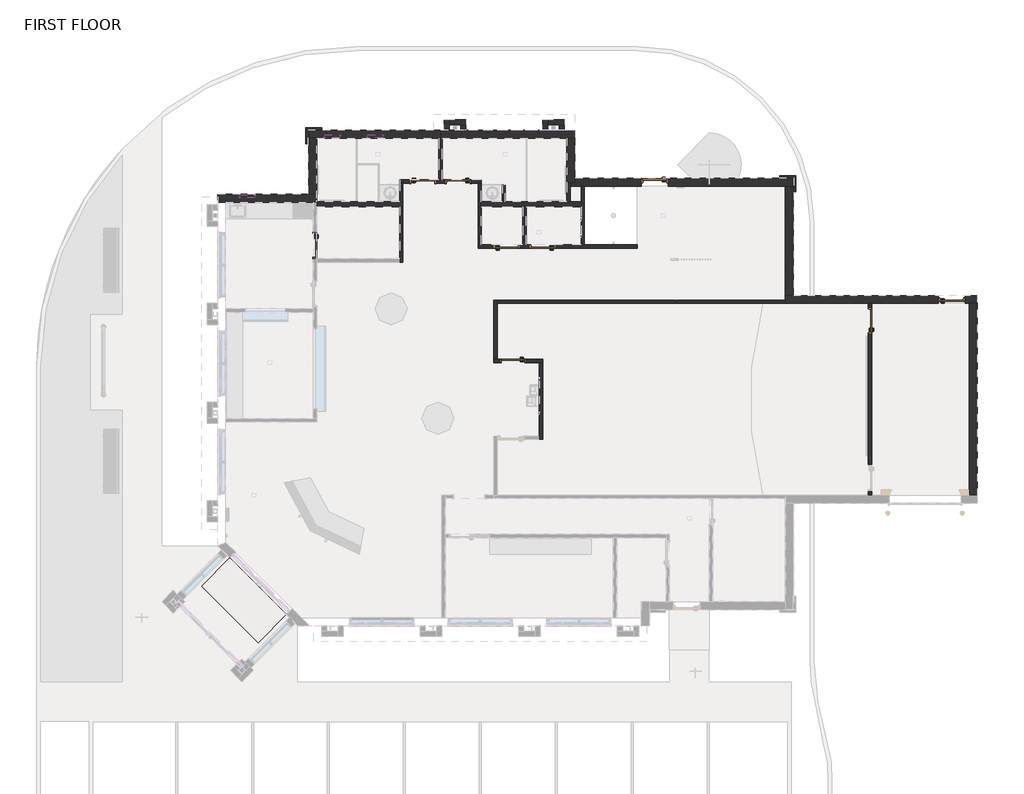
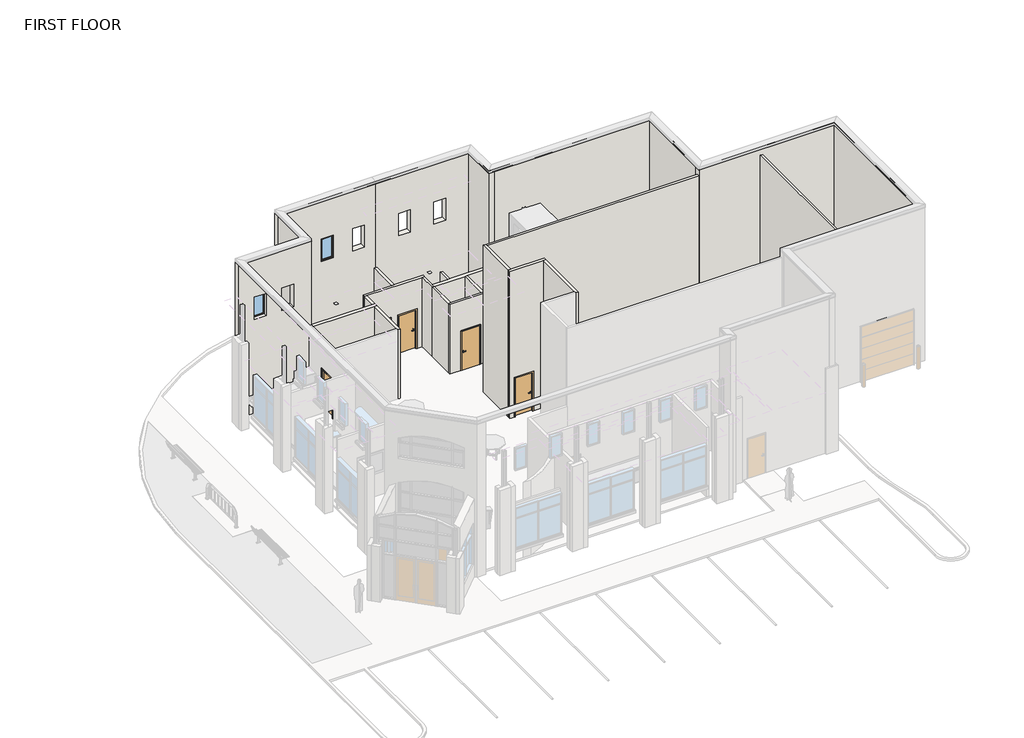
# One storey, part 4 of 7: 37 walls, 9 doors, 3 windows, 1 slab.
"""IFC4 building model written with IfcOpenShell, lengths in millimetres."""

from ifc_helpers import new_model, si_unit, frame, origin, place, context, project, spatial, polyline, outline, extrude, faceted_brep, transform, mapped, element, save
from components import hm_frame_door_interior_single_4ead148d, hm_frame_door_interior_single_41877bdb, hm_frame_door_interior_single_d49bdf56, door_65ba9089, aluminum_exterior_window_single_3885_e2dbf674

model = new_model("IFC4")

# Units and contexts
model_context = context("Model", 3, world=origin())
ifc_project = project(units=[si_unit("LENGTHUNIT", "METRE", prefix="MILLI")], contexts=[model_context])

# Site, building, storey
site = spatial("IfcSite", under=ifc_project)
building = spatial("IfcBuilding", under=site)
storey = spatial("IfcBuildingStorey", under=building, Name="FIRST FLOOR", Elevation=30480.0)

# Doors
placement = place(None, origin())
hm_frame_door_interior_single_shape = hm_frame_door_interior_single_4ead148d(model_context)
element("IfcDoor", 1, ObjectType="HM Frame Door - Interior Single : 36\" x 84\" x 5.75\" WD Door", at=placement, inside=storey, context=model_context, shape_type="MappedRepresentation", body=[
    mapped(hm_frame_door_interior_single_shape, transform((-5569.060253, 3840.2885405, 30480.0), x_axis=(-1.0, 0.0, 0.0), y_axis=(0.0, -1.0, 0.0), z_axis=(0.0, 0.0, 1.0))),
])
element("IfcDoor", 2, ObjectType="HM Frame Door - Interior Single : 36\" x 84\" x 5.75\" WD Door", at=placement, inside=storey, context=model_context, shape_type="MappedRepresentation", body=[
    mapped(hm_frame_door_interior_single_shape, transform((-7661.385253, 10685.5885405, 30480.0), x_axis=(-1.0, 0.0, 0.0), y_axis=(0.0, -1.0, 0.0), z_axis=(0.0, 0.0, 1.0))),
])
element("IfcDoor", 3, ObjectType="HM Frame Door - Interior Single : 36\" x 84\" x 5.75\" WD Door", at=placement, inside=storey, context=model_context, shape_type="MappedRepresentation", body=[
    mapped(hm_frame_door_interior_single_shape, transform((-5811.886793, 8209.0885405, 30480.0), x_axis=(1.0, 0.0, 0.0), y_axis=(0.0, 1.0, 0.0), z_axis=(0.0, 0.0, 1.0))),
])
element("IfcDoor", 4, ObjectType="HM Frame Door - Interior Single : 36\" x 84\" x 5.75\" WD Door", at=placement, inside=storey, context=model_context, shape_type="MappedRepresentation", body=[
    mapped(hm_frame_door_interior_single_shape, transform((8049.7427189, 5375.4010405, 30480.0), x_axis=(0.0, 1.0, 0.0), y_axis=(-1.0, 0.0, 0.0), z_axis=(0.0, 0.0, 1.0))),
])
hm_frame_door_interior_single_2_shape = hm_frame_door_interior_single_41877bdb(model_context)
element("IfcDoor", 5, ObjectType="HM Frame Door - Interior Single : 36\" x 84\" x 5.75\" WD Door", at=placement, inside=storey, context=model_context, shape_type="MappedRepresentation", body=[
    mapped(hm_frame_door_interior_single_2_shape, transform((-13127.147753, 8248.7760405, 30480.0), x_axis=(0.0, -1.0, 0.0), y_axis=(1.0, 0.0, 0.0), z_axis=(0.0, 0.0, 1.0))),
])
element("IfcDoor", 6, ObjectType="HM Frame Door - Interior Single : 36\" x 84\" x 5.75\" WD Door", at=placement, inside=storey, context=model_context, shape_type="MappedRepresentation", body=[
    mapped(hm_frame_door_interior_single_2_shape, transform((-4440.347753, 8209.0885405, 30480.0), x_axis=(-1.0, 0.0, 0.0), y_axis=(0.0, -1.0, 0.0), z_axis=(0.0, 0.0, 1.0))),
])
element("IfcDoor", 7, ObjectType="HM Frame Door - Interior Single : 36\" x 84\" x 5.75\" WD Door", at=placement, inside=storey, context=model_context, shape_type="MappedRepresentation", body=[
    mapped(hm_frame_door_interior_single_2_shape, transform((-9004.410253, 10685.5885405, 30480.0), x_axis=(1.0, 0.0, 0.0), y_axis=(0.0, 1.0, 0.0), z_axis=(0.0, 0.0, 1.0))),
])
hm_frame_door_interior_single_3_shape = hm_frame_door_interior_single_d49bdf56(model_context)
element("IfcDoor", 8, ObjectType="HM Frame Door - Interior Single : 36\" x 84\" x 5.75\" WD Door", at=placement, inside=storey, context=model_context, shape_type="MappedRepresentation", body=[
    mapped(hm_frame_door_interior_single_3_shape, transform((11166.364747, 6188.2010405, 30480.0), x_axis=(1.0, 0.0, 0.0), y_axis=(0.0, 1.0, 0.0), z_axis=(0.0, 0.0, 1.0))),
])
door_shape = door_65ba9089(model_context)
element("IfcDoor", 9, ObjectType="HM_Frame_Door_-_Exterior_Single_3894 : 3'-0\" x 7'-0\" Metal_5.75\" x 4\"", at=placement, inside=storey, context=model_context, shape_type="MappedRepresentation", body=[
    mapped(door_shape, transform((-162.035253, 10658.6010405, 30480.0), x_axis=(1.0, 0.0, 0.0), y_axis=(0.0, 1.0, 0.0), z_axis=(0.0, 0.0, 1.0))),
])

# Slab
element("IfcSlab", 10, ObjectType="Concrete - 4\"", at=placement, inside=storey, context=model_context, shape_type="SweptSolid", body=[
    extrude(outline(polyline([(-14214.7196115, -5819.514601), (-15292.3503461, -6897.1453355), (-17447.6118151, -4741.8838664), (-16369.9810806, -3664.2531319), (-14214.7196115, -5819.514601)])), frame((0.0, 0.0, 30378.4), z_axis=(0.0, 0.0, 1.0), x_axis=(1.0, 0.0, 0.0)), (0.0, 0.0, 1.0), 101.6),
])

# Walls
element("IfcWall", 11, ObjectType="Exterior - Brick on Mtl. Stud", at=placement, inside=storey, context=model_context, shape_type="Brep", body=[
    faceted_brep([(-16824.435253, 9896.6010405, 30480.0), (-16519.635253, 9896.6010405, 30480.0), (-13189.060253, 9896.6010405, 30480.0), (-13065.235253, 9896.6010405, 30480.0), (-13065.235253, 9896.6010405, 34290.0), (-13065.235253, 9896.6010405, 34594.8), (-13065.235253, 9896.6010405, 38557.2), (-13065.235253, 9896.6010405, 38890.816921), (-16519.635253, 9896.6010405, 38890.816921), (-16522.810253, 9896.6010405, 38899.5401618), (-16522.810253, 9896.6010405, 39014.4), (-16824.435253, 9896.6010405, 39014.4), (-13979.635253, 9896.6010405, 36830.0), (-13979.635253, 9896.6010405, 35610.8), (-14589.235253, 9896.6010405, 35610.8), (-14589.235253, 9896.6010405, 36830.0), (-15402.035253, 9896.6010405, 36830.0), (-15402.035253, 9896.6010405, 35610.8), (-16011.635253, 9896.6010405, 35610.8), (-16011.635253, 9896.6010405, 36830.0), (-13065.235253, 10201.4010405, 30480.0), (-13370.035253, 10201.4010405, 30480.0), (-16824.435253, 10201.4010405, 30480.0), (-16824.435253, 10201.4010405, 39014.4), (-13370.035253, 10201.4010405, 39014.4), (-13068.410253, 10201.4010405, 39014.4), (-13068.410253, 10201.4010405, 38899.5401618), (-13065.235253, 10201.4010405, 38890.816921), (-13979.635253, 10201.4010405, 35610.8), (-13979.635253, 10201.4010405, 36830.0), (-14589.235253, 10201.4010405, 36830.0), (-14589.235253, 10201.4010405, 35610.8), (-15402.035253, 10201.4010405, 35610.8), (-15402.035253, 10201.4010405, 36830.0), (-16011.635253, 10201.4010405, 36830.0), (-16011.635253, 10201.4010405, 35610.8), (-13065.235253, 9912.4760405, 30480.0), (-16522.810253, 9899.7760405, 39014.4), (-13068.410253, 9899.7760405, 39014.4), (-16522.810253, 9899.7760405, 38899.5401618), (-13068.410253, 9899.7760405, 38899.5401618)], [[[0, 1, 2, 3, 4, 5, 6, 7, 8, 9, 10, 11], [12, 13, 14, 15], [16, 17, 18, 19]], [[20, 21, 22, 23, 24, 25, 26, 27], [28, 29, 30, 31], [32, 33, 34, 35]], [[3, 2, 1, 0, 22, 21, 20, 36]], [[23, 11, 10, 37, 38, 25, 24]], [[0, 11, 23, 22]], [[3, 36, 20, 27, 7, 6, 5, 4]], [[13, 12, 29, 28]], [[14, 13, 28, 31]], [[15, 14, 31, 30]], [[12, 15, 30, 29]], [[17, 16, 33, 32]], [[18, 17, 32, 35]], [[19, 18, 35, 34]], [[16, 19, 34, 33]], [[39, 37, 10, 9]], [[8, 39, 9]], [[39, 40, 38, 37]], [[40, 39, 8, 7]], [[38, 40, 26, 25]], [[40, 7, 27, 26]]]),
])
element("IfcWall", 12, ObjectType="Exterior - Brick on Mtl. Stud", at=placement, inside=storey, context=model_context, shape_type="SweptSolid", body=[
    extrude(outline(polyline([(30480.0, 4816.364747), (30480.0, 5121.164747), (39014.4, 5121.164747), (39014.4, 4819.539747), (38899.5401618, 4819.539747), (38890.816921, 4816.364747), (30480.0, 4816.364747)])), frame((0.0, 6340.6010405, 0.0), z_axis=(0.0, 1.0, 0.0), x_axis=(0.0, 0.0, 1.0)), (0.0, 0.0, 1.0), 4165.6),
])
element("IfcWall", 13, ObjectType="Exterior - Brick on Mtl. Stud", at=placement, inside=storey, context=model_context, shape_type="Brep", body=[
    faceted_brep([(12131.564747, 6035.8010405, 30480.0), (12131.564747, 6035.8010405, 39014.4), (11829.939747, 6035.8010405, 39014.4), (11829.939747, 6035.8010405, 38899.5401618), (11826.764747, 6035.8010405, 38890.816921), (4816.364747, 6035.8010405, 38890.816921), (4816.364747, 6035.8010405, 38557.2), (4816.364747, 6035.8010405, 30480.0), (7987.8302189, 6035.8010405, 30480.0), (8111.6552189, 6035.8010405, 30480.0), (10658.364747, 6035.8010405, 30480.0), (10658.364747, 6035.8010405, 32664.4), (11674.364747, 6035.8010405, 32664.4), (11674.364747, 6035.8010405, 30480.0), (11826.764747, 6035.8010405, 30480.0), (12131.564747, 6340.6010405, 39014.4), (12131.564747, 6340.6010405, 30480.0), (11674.364747, 6340.6010405, 30480.0), (11674.364747, 6340.6010405, 32664.4), (10658.364747, 6340.6010405, 32664.4), (10658.364747, 6340.6010405, 30480.0), (5121.164747, 6340.6010405, 30480.0), (4816.364747, 6340.6010405, 30480.0), (4816.364747, 6340.6010405, 38890.816921), (4819.539747, 6340.6010405, 38899.5401618), (4819.539747, 6340.6010405, 39014.4), (5121.164747, 6340.6010405, 39014.4), (4816.364747, 6159.6260405, 30480.0), (4819.539747, 6038.9760405, 39014.4), (11829.939747, 6038.9760405, 39014.4), (4819.539747, 6038.9760405, 38899.5401618), (11829.939747, 6038.9760405, 38899.5401618)], [[[0, 1, 2, 3, 4, 5, 6, 7, 8, 9, 10, 11, 12, 13, 14]], [[15, 16, 17, 18, 19, 20, 21, 22, 23, 24, 25, 26]], [[7, 27, 22, 21, 20, 10, 9, 8]], [[16, 0, 14, 13, 17]], [[1, 15, 26, 25, 28, 29, 2]], [[1, 0, 16, 15]], [[22, 27, 7, 6, 5, 23]], [[19, 18, 12, 11]], [[20, 19, 11, 10]], [[18, 17, 13, 12]], [[30, 28, 25, 24]], [[5, 30, 24, 23]], [[30, 31, 29, 28]], [[31, 30, 5, 4]], [[29, 31, 3, 2]], [[31, 4, 3]]]),
])
element("IfcWall", 14, ObjectType="Exterior - Brick on Mtl. Stud", at=placement, inside=storey, context=model_context, shape_type="SweptSolid", body=[
    extrude(outline(polyline([(30480.0, 11826.764747), (30480.0, 12131.564747), (39014.4, 12131.564747), (39014.4, 11829.939747), (38899.5401618, 11829.939747), (38890.816921, 11826.764747), (30480.0, 11826.764747)])), frame((0.0, -1279.3989595, 0.0), z_axis=(0.0, 1.0, 0.0), x_axis=(0.0, 0.0, 1.0)), (0.0, 0.0, 1.0), 7315.2),
])
element("IfcWall", 15, ObjectType="Exterior - Brick on Mtl. Stud", at=placement, inside=storey, context=model_context, shape_type="Brep", body=[
    faceted_brep([(-13370.035253, 12335.0010405, 30480.0), (-13065.235253, 12335.0010405, 30480.0), (-8394.810253, 12335.0010405, 30480.0), (-8332.897753, 12335.0010405, 30480.0), (-8332.897753, 12335.0010405, 38890.816921), (-13065.235253, 12335.0010405, 38890.816921), (-13068.410253, 12335.0010405, 38899.5401618), (-13068.410253, 12335.0010405, 39014.4), (-13370.035253, 12335.0010405, 39014.4), (-9509.235253, 12335.0010405, 35610.8), (-9509.235253, 12335.0010405, 36830.0), (-8899.635253, 12335.0010405, 36830.0), (-8899.635253, 12335.0010405, 35610.8), (-11134.835253, 12335.0010405, 35610.8), (-11134.835253, 12335.0010405, 36830.0), (-10525.235253, 12335.0010405, 36830.0), (-10525.235253, 12335.0010405, 35610.8), (-12760.435253, 12335.0010405, 35610.8), (-12760.435253, 12335.0010405, 36830.0), (-12150.835253, 12335.0010405, 36830.0), (-12150.835253, 12335.0010405, 35610.8), (-8332.897753, 12639.8010405, 30480.0), (-13370.035253, 12639.8010405, 30480.0), (-13370.035253, 12639.8010405, 39014.4), (-8332.897753, 12639.8010405, 39014.4), (-9509.235253, 12639.8010405, 36830.0), (-9509.235253, 12639.8010405, 35610.8), (-8899.635253, 12639.8010405, 35610.8), (-8899.635253, 12639.8010405, 36830.0), (-11134.835253, 12639.8010405, 36830.0), (-11134.835253, 12639.8010405, 35610.8), (-10525.235253, 12639.8010405, 35610.8), (-10525.235253, 12639.8010405, 36830.0), (-12760.435253, 12639.8010405, 36830.0), (-12760.435253, 12639.8010405, 35610.8), (-12150.835253, 12639.8010405, 35610.8), (-12150.835253, 12639.8010405, 36830.0), (-13068.410253, 12338.1760405, 39014.4), (-8332.897753, 12338.1760405, 39014.4), (-8332.897753, 12338.1760405, 38899.5401618), (-13068.410253, 12338.1760405, 38899.5401618)], [[[0, 1, 2, 3, 4, 5, 6, 7, 8], [9, 10, 11, 12], [13, 14, 15, 16], [17, 18, 19, 20]], [[21, 22, 23, 24], [25, 26, 27, 28], [29, 30, 31, 32], [33, 34, 35, 36]], [[3, 2, 1, 0, 22, 21]], [[24, 23, 8, 7, 37, 38]], [[0, 8, 23, 22]], [[3, 21, 24, 38, 39, 4]], [[26, 25, 10, 9]], [[27, 26, 9, 12]], [[28, 27, 12, 11]], [[25, 28, 11, 10]], [[30, 29, 14, 13]], [[31, 30, 13, 16]], [[32, 31, 16, 15]], [[29, 32, 15, 14]], [[34, 33, 18, 17]], [[35, 34, 17, 20]], [[36, 35, 20, 19]], [[33, 36, 19, 18]], [[40, 37, 7, 6]], [[5, 40, 6]], [[37, 40, 39, 38]], [[40, 5, 4, 39]]]),
])
element("IfcWall", 16, ObjectType="Exterior - Brick on Mtl. Stud", at=placement, inside=storey, context=model_context, shape_type="SweptSolid", body=[
    extrude(outline(polyline([(30480.0, -13370.035253), (30480.0, -13065.235253), (38890.816921, -13065.235253), (38899.5401618, -13068.410253), (39014.4, -13068.410253), (39014.4, -13370.035253), (30480.0, -13370.035253)])), frame((0.0, 10201.4010405, 0.0), z_axis=(0.0, 1.0, 0.0), x_axis=(0.0, 0.0, 1.0)), (0.0, 0.0, 1.0), 2133.6),
])
element("IfcWall", 17, ObjectType="Exterior - Brick on Mtl. Stud", at=placement, inside=storey, context=model_context, shape_type="Brep", body=[
    faceted_brep([(-3210.035253, 10658.6010405, 30480.0), (-3210.035253, 10811.0010405, 30480.0), (-3210.035253, 12335.0010405, 30480.0), (-3210.035253, 12335.0010405, 39014.4), (-3210.035253, 10811.0010405, 39014.4), (-3210.035253, 10509.3760405, 39014.4), (-3210.035253, 10509.3760405, 38899.5401618), (-3210.035253, 10506.2010405, 38890.816921), (-3210.035253, 10506.2010405, 34290.0), (-3210.035253, 10658.6010405, 34290.0), (-3514.835253, 12335.0010405, 30480.0), (-3514.835253, 10658.6010405, 30480.0), (-3514.835253, 10658.6010405, 34290.0), (-3514.835253, 10506.2010405, 34290.0), (-3514.835253, 10506.2010405, 34594.8), (-3514.835253, 10506.2010405, 38557.2), (-3514.835253, 10506.2010405, 38890.816921), (-3514.835253, 12335.0010405, 38890.816921), (-3391.010253, 10658.6010405, 30480.0), (-3511.660253, 12335.0010405, 39014.4), (-3511.660253, 10509.3760405, 39014.4), (-3391.010253, 10658.6010405, 34290.0), (-3391.010253, 10506.2010405, 34290.0), (-3511.660253, 12335.0010405, 38899.5401618), (-3511.660253, 10509.3760405, 38899.5401618)], [[[0, 1, 2, 3, 4, 5, 6, 7, 8, 9]], [[10, 11, 12, 13, 14, 15, 16, 17]], [[2, 1, 0, 18, 11, 10]], [[5, 4, 3, 19, 20]], [[11, 18, 0, 9, 21, 12]], [[13, 12, 21, 9, 8, 22]], [[13, 22, 8, 7, 16, 15, 14]], [[3, 2, 10, 17, 23, 19]], [[24, 16, 7, 6]], [[20, 24, 6, 5]], [[16, 24, 23, 17]], [[23, 24, 20, 19]]]),
])
element("IfcWall", 18, ObjectType="Exterior - Brick on Mtl. Stud", at=placement, inside=storey, context=model_context, shape_type="Brep", body=[
    faceted_brep([(5121.164747, 10506.2010405, 30480.0), (5121.164747, 10506.2010405, 39014.4), (4819.539747, 10506.2010405, 39014.4), (4819.539747, 10506.2010405, 38899.5401618), (4816.364747, 10506.2010405, 38890.816921), (-3210.035253, 10506.2010405, 38890.816921), (-3210.035253, 10506.2010405, 34290.0), (-3391.010253, 10506.2010405, 34290.0), (-3391.010253, 10506.2010405, 30480.0), (-2967.147753, 10506.2010405, 30480.0), (-2843.322753, 10506.2010405, 30480.0), (-670.035253, 10506.2010405, 30480.0), (-670.035253, 10506.2010405, 32715.2), (345.964747, 10506.2010405, 32715.2), (345.964747, 10506.2010405, 30480.0), (4816.364747, 10506.2010405, 30480.0), (-3210.035253, 10811.0010405, 39014.4), (5121.164747, 10811.0010405, 39014.4), (5121.164747, 10811.0010405, 30480.0), (345.964747, 10811.0010405, 30480.0), (345.964747, 10811.0010405, 32715.2), (-670.035253, 10811.0010405, 32715.2), (-670.035253, 10811.0010405, 30480.0), (-3210.035253, 10811.0010405, 30480.0), (-3391.010253, 10658.6010405, 30480.0), (-3210.035253, 10658.6010405, 30480.0), (-3210.035253, 10509.3760405, 39014.4), (4819.539747, 10509.3760405, 39014.4), (-3210.035253, 10658.6010405, 34290.0), (-3391.010253, 10658.6010405, 34290.0), (-3210.035253, 10509.3760405, 38899.5401618), (4819.539747, 10509.3760405, 38899.5401618)], [[[0, 1, 2, 3, 4, 5, 6, 7, 8, 9, 10, 11, 12, 13, 14, 15]], [[16, 17, 18, 19, 20, 21, 22, 23]], [[18, 0, 15, 14, 19]], [[8, 24, 25, 23, 22, 11, 10, 9]], [[17, 16, 26, 27, 2, 1]], [[1, 0, 18, 17]], [[7, 6, 28, 29]], [[8, 7, 29, 24]], [[29, 28, 25, 24]], [[23, 25, 28, 6, 5, 30, 26, 16]], [[21, 20, 13, 12]], [[22, 21, 12, 11]], [[20, 19, 14, 13]], [[31, 27, 26, 30]], [[4, 31, 30, 5]], [[27, 31, 3, 2]], [[31, 4, 3]]]),
])
element("IfcWall", 19, ObjectType="Exterior - Brick on Mtl. Stud", at=placement, inside=storey, context=model_context, shape_type="Brep", body=[
    faceted_brep([(-8332.897753, 12335.0010405, 30480.0), (-8270.985253, 12335.0010405, 30480.0), (-3514.835253, 12335.0010405, 30480.0), (-3210.035253, 12335.0010405, 30480.0), (-3210.035253, 12335.0010405, 39014.4), (-3511.660253, 12335.0010405, 39014.4), (-3511.660253, 12335.0010405, 38899.5401618), (-3514.835253, 12335.0010405, 38890.816921), (-8332.897753, 12335.0010405, 38890.816921), (-6512.035253, 12335.0010405, 36830.0), (-6512.035253, 12335.0010405, 35610.8), (-7121.635253, 12335.0010405, 35610.8), (-7121.635253, 12335.0010405, 36830.0), (-4683.235253, 12335.0010405, 36830.0), (-4683.235253, 12335.0010405, 35610.8), (-5292.835253, 12335.0010405, 35610.8), (-5292.835253, 12335.0010405, 36830.0), (-3210.035253, 12639.8010405, 30480.0), (-8332.897753, 12639.8010405, 30480.0), (-8332.897753, 12639.8010405, 39014.4), (-3210.035253, 12639.8010405, 39014.4), (-6512.035253, 12639.8010405, 35610.8), (-6512.035253, 12639.8010405, 36830.0), (-7121.635253, 12639.8010405, 36830.0), (-7121.635253, 12639.8010405, 35610.8), (-4683.235253, 12639.8010405, 35610.8), (-4683.235253, 12639.8010405, 36830.0), (-5292.835253, 12639.8010405, 36830.0), (-5292.835253, 12639.8010405, 35610.8), (-8332.897753, 12338.1760405, 39014.4), (-3511.660253, 12338.1760405, 39014.4), (-8332.897753, 12338.1760405, 38899.5401618), (-3511.660253, 12338.1760405, 38899.5401618)], [[[0, 1, 2, 3, 4, 5, 6, 7, 8], [9, 10, 11, 12], [13, 14, 15, 16]], [[17, 18, 19, 20], [21, 22, 23, 24], [25, 26, 27, 28]], [[3, 2, 1, 0, 18, 17]], [[20, 19, 29, 30, 5, 4]], [[4, 3, 17, 20]], [[18, 0, 8, 31, 29, 19]], [[10, 9, 22, 21]], [[11, 10, 21, 24]], [[12, 11, 24, 23]], [[9, 12, 23, 22]], [[14, 13, 26, 25]], [[15, 14, 25, 28]], [[16, 15, 28, 27]], [[13, 16, 27, 26]], [[32, 30, 29, 31]], [[7, 32, 31, 8]], [[30, 32, 6, 5]], [[32, 7, 6]]]),
])
element("IfcWall", 20, ObjectType="Generic - 4\" CMU", at=placement, inside=storey, context=model_context, shape_type="Brep", body=[
    faceted_brep([(4613.164747, 10810.4918385, 30480.0), (5121.164747, 10810.4918385, 30480.0), (5222.764747, 10810.4918385, 30480.0), (5222.764747, 10810.4918385, 35153.6), (5121.164747, 10810.4918385, 35153.6), (4613.164747, 10810.4918385, 35153.6), (4613.164747, 10912.0918385, 30480.0), (4613.164747, 10912.0918385, 35153.6), (5222.764747, 10912.0918385, 35153.6), (5222.764747, 10912.0918385, 30480.0)], [[[0, 1, 2, 3, 4, 5]], [[6, 7, 8, 9]], [[2, 1, 0, 6, 9]], [[5, 4, 3, 8, 7]], [[0, 5, 7, 6]], [[3, 2, 9, 8]]]),
])
element("IfcWall", 21, ObjectType="Generic - 4\" CMU", at=placement, inside=storey, context=model_context, shape_type="SweptSolid", body=[
    extrude(outline(polyline([(5222.764747, 10810.4918385), (5222.764747, 10302.4918385), (5121.164747, 10302.4918385), (5121.164747, 10810.4918385), (5222.764747, 10810.4918385)])), frame((0.0, 0.0, 30480.0), z_axis=(0.0, 0.0, 1.0), x_axis=(1.0, 0.0, 0.0)), (0.0, 0.0, 1.0), 4673.6),
])
element("IfcWall", 22, ObjectType="Generic - 4\" CMU", at=placement, inside=storey, context=model_context, shape_type="Brep", body=[
    faceted_brep([(-12862.035253, 12741.4010405, 30480.0), (-13471.635253, 12741.4010405, 30480.0), (-13471.635253, 12741.4010405, 35153.6), (-12862.035253, 12741.4010405, 35153.6), (-12862.035253, 12639.8010405, 30480.0), (-12862.035253, 12639.8010405, 35153.6), (-13370.035253, 12639.8010405, 35153.6), (-13471.635253, 12639.8010405, 35153.6), (-13471.635253, 12639.8010405, 30480.0), (-13370.035253, 12639.8010405, 30480.0)], [[[0, 1, 2, 3]], [[4, 5, 6, 7, 8, 9]], [[1, 0, 4, 9, 8]], [[3, 2, 7, 6, 5]], [[0, 3, 5, 4]], [[2, 1, 8, 7]]]),
])
element("IfcWall", 23, ObjectType="Generic - 4\" CMU", at=placement, inside=storey, context=model_context, shape_type="SweptSolid", body=[
    extrude(outline(polyline([(-13370.035253, 12639.8010405), (-13370.035253, 12131.8010405), (-13471.635253, 12131.8010405), (-13471.635253, 12639.8010405), (-13370.035253, 12639.8010405)])), frame((0.0, 0.0, 30480.0), z_axis=(0.0, 0.0, 1.0), x_axis=(1.0, 0.0, 0.0)), (0.0, 0.0, 1.0), 4673.6),
])
element("IfcWall", 24, ObjectType="Generic - 8\" Masonry", at=placement, inside=storey, context=model_context, shape_type="Brep", body=[
    faceted_brep([(-7994.729773, 12639.8010405, 30480.0), (-7994.729773, 12852.5260405, 30480.0), (-7994.729773, 13046.2010405, 30480.0), (-7994.729773, 13046.2010405, 35153.6), (-7994.729773, 12852.5260405, 35153.6), (-7994.729773, 12639.8010405, 35153.6), (-8188.404773, 12639.8010405, 30480.0), (-8188.404773, 12639.8010405, 35153.6), (-8188.404773, 13046.2010405, 35153.6), (-8188.404773, 13046.2010405, 30480.0)], [[[0, 1, 2, 3, 4, 5]], [[6, 7, 8, 9]], [[2, 1, 0, 6, 9]], [[5, 4, 3, 8, 7]], [[0, 5, 7, 6]], [[3, 2, 9, 8]]]),
])
element("IfcWall", 25, ObjectType="Generic - 8\" Masonry", at=placement, inside=storey, context=model_context, shape_type="Brep", body=[
    faceted_brep([(-7994.729773, 12852.5260405, 30480.0), (-7569.279773, 12852.5260405, 30480.0), (-7375.604773, 12852.5260405, 30480.0), (-7375.604773, 12852.5260405, 35153.6), (-7569.279773, 12852.5260405, 35153.6), (-7994.729773, 12852.5260405, 35153.6), (-7994.729773, 13046.2010405, 30480.0), (-7994.729773, 13046.2010405, 35153.6), (-7375.604773, 13046.2010405, 35153.6), (-7375.604773, 13046.2010405, 30480.0)], [[[0, 1, 2, 3, 4, 5]], [[6, 7, 8, 9]], [[2, 1, 0, 6, 9]], [[5, 4, 3, 8, 7]], [[3, 2, 9, 8]], [[0, 5, 7, 6]]]),
])
element("IfcWall", 26, ObjectType="Generic - 8\" Masonry", at=placement, inside=storey, context=model_context, shape_type="SweptSolid", body=[
    extrude(outline(polyline([(-7569.279773, 12639.8010405), (-7569.279773, 12852.5260405), (-7375.604773, 12852.5260405), (-7375.604773, 12639.8010405), (-7569.279773, 12639.8010405)])), frame((0.0, 0.0, 30480.0), z_axis=(0.0, 0.0, 1.0), x_axis=(1.0, 0.0, 0.0)), (0.0, 0.0, 1.0), 4673.6),
])
element("IfcWall", 27, ObjectType="Generic - 8\" Masonry", at=placement, inside=storey, context=model_context, shape_type="Brep", body=[
    faceted_brep([(-4235.529773, 12639.8010405, 30480.0), (-4235.529773, 12852.5260405, 30480.0), (-4235.529773, 13046.2010405, 30480.0), (-4235.529773, 13046.2010405, 35153.6), (-4235.529773, 12852.5260405, 35153.6), (-4235.529773, 12639.8010405, 35153.6), (-4429.204773, 12639.8010405, 30480.0), (-4429.204773, 12639.8010405, 35153.6), (-4429.204773, 13046.2010405, 35153.6), (-4429.204773, 13046.2010405, 30480.0)], [[[0, 1, 2, 3, 4, 5]], [[6, 7, 8, 9]], [[2, 1, 0, 6, 9]], [[5, 4, 3, 8, 7]], [[0, 5, 7, 6]], [[3, 2, 9, 8]]]),
])
element("IfcWall", 28, ObjectType="Generic - 8\" Masonry", at=placement, inside=storey, context=model_context, shape_type="Brep", body=[
    faceted_brep([(-4235.529773, 12852.5260405, 30480.0), (-3810.079773, 12852.5260405, 30480.0), (-3616.404773, 12852.5260405, 30480.0), (-3616.404773, 12852.5260405, 35153.6), (-3810.079773, 12852.5260405, 35153.6), (-4235.529773, 12852.5260405, 35153.6), (-4235.529773, 13046.2010405, 30480.0), (-4235.529773, 13046.2010405, 35153.6), (-3616.404773, 13046.2010405, 35153.6), (-3616.404773, 13046.2010405, 30480.0)], [[[0, 1, 2, 3, 4, 5]], [[6, 7, 8, 9]], [[2, 1, 0, 6, 9]], [[5, 4, 3, 8, 7]], [[3, 2, 9, 8]], [[0, 5, 7, 6]]]),
])
element("IfcWall", 29, ObjectType="Generic - 8\" Masonry", at=placement, inside=storey, context=model_context, shape_type="SweptSolid", body=[
    extrude(outline(polyline([(-3810.079773, 12639.8010405), (-3810.079773, 12852.5260405), (-3616.404773, 12852.5260405), (-3616.404773, 12639.8010405), (-3810.079773, 12639.8010405)])), frame((0.0, 0.0, 30480.0), z_axis=(0.0, 0.0, 1.0), x_axis=(1.0, 0.0, 0.0)), (0.0, 0.0, 1.0), 4673.6),
])
element("IfcWall", 30, ObjectType="Interior - 4 7/8\" Partition (1-hr)", at=placement, inside=storey, context=model_context, shape_type="SweptSolid", body=[
    extrude(outline(polyline([(4816.364747, 6035.8010405), (-6178.660253, 6035.8010405), (-6178.660253, 6159.6260405), (4816.364747, 6159.6260405), (4816.364747, 6035.8010405)])), frame((0.0, 0.0, 30480.0), z_axis=(0.0, 0.0, 1.0), x_axis=(1.0, 0.0, 0.0)), (0.0, 0.0, 1.0), 8077.2),
])
element("IfcWall", 31, ObjectType="Interior - 4 7/8\" Partition (1-hr)", at=placement, inside=storey, context=model_context, shape_type="Brep", body=[
    faceted_brep([(-9890.235253, 9728.3260405, 30480.0), (-9890.235253, 7740.7760405, 30480.0), (-9890.235253, 7616.9510405, 30480.0), (-9890.235253, 7616.9510405, 34290.0), (-9890.235253, 7740.7760405, 34290.0), (-9890.235253, 9728.3260405, 34290.0), (-9766.410253, 9728.3260405, 30480.0), (-9766.410253, 9728.3260405, 34290.0), (-9766.410253, 7616.9510405, 34290.0), (-9766.410253, 7616.9510405, 30480.0)], [[[0, 1, 2, 3, 4, 5]], [[6, 7, 8, 9]], [[2, 1, 0, 6, 9]], [[5, 4, 3, 8, 7]], [[3, 2, 9, 8]], [[0, 5, 7, 6]]]),
])
element("IfcWall", 32, ObjectType="Interior - 4 7/8\" Partition (1-hr)", at=placement, inside=storey, context=model_context, shape_type="Brep", body=[
    faceted_brep([(-8270.985253, 10747.5010405, 30480.0), (-8270.985253, 12335.0010405, 30480.0), (-8270.985253, 12335.0010405, 34290.0), (-8270.985253, 10747.5010405, 34290.0), (-8394.810253, 10747.5010405, 30480.0), (-8394.810253, 10747.5010405, 34290.0), (-8394.810253, 12335.0010405, 34290.0), (-8394.810253, 12335.0010405, 30480.0), (-8332.897753, 12335.0010405, 30480.0)], [[[0, 1, 2, 3]], [[4, 5, 6, 7]], [[1, 0, 4, 7, 8]], [[3, 2, 6, 5]], [[0, 3, 5, 4]], [[2, 1, 8, 7, 6]]]),
])
element("IfcWall", 33, ObjectType="Interior - 4 7/8\" Partition (1-hr)", at=placement, inside=storey, context=model_context, shape_type="Brep", body=[
    faceted_brep([(-8169.385253, 10747.5010405, 32664.4), (-8169.385253, 10747.5010405, 30480.0), (-8270.985253, 10747.5010405, 30480.0), (-8394.810253, 10747.5010405, 30480.0), (-8496.410253, 10747.5010405, 30480.0), (-8496.410253, 10747.5010405, 32664.4), (-9512.410253, 10747.5010405, 32664.4), (-9512.410253, 10747.5010405, 30480.0), (-9890.235253, 10747.5010405, 30480.0), (-9890.235253, 10747.5010405, 34290.0), (-8394.810253, 10747.5010405, 34290.0), (-8270.985253, 10747.5010405, 34290.0), (-6775.560253, 10747.5010405, 34290.0), (-6775.560253, 10747.5010405, 30480.0), (-7153.385253, 10747.5010405, 30480.0), (-7153.385253, 10747.5010405, 32664.4), (-8496.410253, 10623.6760405, 30480.0), (-8169.385253, 10623.6760405, 30480.0), (-8169.385253, 10623.6760405, 32664.4), (-7153.385253, 10623.6760405, 32664.4), (-7153.385253, 10623.6760405, 30480.0), (-6899.385253, 10623.6760405, 30480.0), (-6775.560253, 10623.6760405, 30480.0), (-6775.560253, 10623.6760405, 34290.0), (-6899.385253, 10623.6760405, 34290.0), (-9766.410253, 10623.6760405, 34290.0), (-9890.235253, 10623.6760405, 34290.0), (-9890.235253, 10623.6760405, 30480.0), (-9766.410253, 10623.6760405, 30480.0), (-9512.410253, 10623.6760405, 30480.0), (-9512.410253, 10623.6760405, 32664.4), (-8496.410253, 10623.6760405, 32664.4)], [[[0, 1, 2, 3, 4, 5, 6, 7, 8, 9, 10, 11, 12, 13, 14, 15]], [[16, 17, 18, 19, 20, 21, 22, 23, 24, 25, 26, 27, 28, 29, 30, 31]], [[4, 3, 2, 1, 17, 16]], [[29, 28, 27, 8, 7]], [[14, 13, 22, 21, 20]], [[12, 11, 10, 9, 26, 25, 24, 23]], [[13, 12, 23, 22]], [[9, 8, 27, 26]], [[6, 5, 31, 30]], [[7, 6, 30, 29]], [[5, 4, 16, 31]], [[19, 18, 0, 15]], [[20, 19, 15, 14]], [[18, 17, 1, 0]]]),
])
element("IfcWall", 34, ObjectType="Interior - 4 7/8\" Partition (1-hr)", at=placement, inside=storey, context=model_context, shape_type="Brep", body=[
    faceted_brep([(-2967.147753, 10506.2010405, 30480.0), (-2967.147753, 9912.4760405, 30480.0), (-2967.147753, 9728.3260405, 30480.0), (-2967.147753, 8271.0010405, 30480.0), (-2967.147753, 8271.0010405, 34290.0), (-2967.147753, 9728.3260405, 34290.0), (-2967.147753, 9912.4760405, 34290.0), (-2967.147753, 10506.2010405, 34290.0), (-2843.322753, 10506.2010405, 30480.0), (-2843.322753, 10506.2010405, 34290.0), (-2843.322753, 8271.0010405, 34290.0), (-2843.322753, 8271.0010405, 30480.0)], [[[0, 1, 2, 3, 4, 5, 6, 7]], [[8, 9, 10, 11]], [[3, 2, 1, 0, 8, 11]], [[7, 6, 5, 4, 10, 9]], [[4, 3, 11, 10]], [[0, 7, 9, 8]]]),
])
element("IfcWall", 35, ObjectType="Interior - 4 7/8\" Partition (1-hr)", at=placement, inside=storey, context=model_context, shape_type="Brep", body=[
    faceted_brep([(-6302.485253, 3778.3760405, 30480.0), (-6077.060253, 3778.3760405, 30480.0), (-6077.060253, 3778.3760405, 32664.4), (-5061.060253, 3778.3760405, 32664.4), (-5061.060253, 3778.3760405, 30480.0), (-4564.172753, 3778.3760405, 30480.0), (-4440.347753, 3778.3760405, 30480.0), (-4440.347753, 3778.3760405, 38557.2), (-4564.172753, 3778.3760405, 38557.2), (-6302.485253, 3778.3760405, 38557.2), (-6077.060253, 3902.2010405, 32664.4), (-6077.060253, 3902.2010405, 30480.0), (-6178.660253, 3902.2010405, 30480.0), (-6302.485253, 3902.2010405, 30480.0), (-6302.485253, 3902.2010405, 38557.2), (-6178.660253, 3902.2010405, 38557.2), (-4440.347753, 3902.2010405, 38557.2), (-4440.347753, 3902.2010405, 30480.0), (-5061.060253, 3902.2010405, 30480.0), (-5061.060253, 3902.2010405, 32664.4)], [[[0, 1, 2, 3, 4, 5, 6, 7, 8, 9]], [[10, 11, 12, 13, 14, 15, 16, 17, 18, 19]], [[18, 17, 6, 5, 4]], [[13, 12, 11, 1, 0]], [[9, 8, 7, 16, 15, 14]], [[7, 6, 17, 16]], [[0, 9, 14, 13]], [[3, 2, 10, 19]], [[4, 3, 19, 18]], [[2, 1, 11, 10]]]),
])
element("IfcWall", 36, ObjectType="Interior - 4 7/8\" Partition (1-hr)", at=placement, inside=storey, context=model_context, shape_type="Brep", body=[
    faceted_brep([(-4564.172753, 3778.3760405, 30480.0), (-4564.172753, 978.0260405, 30480.0), (-4564.172753, 854.2010405, 30480.0), (-4564.172753, 854.2010405, 38557.2), (-4564.172753, 978.0260405, 38557.2), (-4564.172753, 3778.3760405, 38557.2), (-4440.347753, 3778.3760405, 30480.0), (-4440.347753, 3778.3760405, 38557.2), (-4440.347753, 854.2010405, 38557.2), (-4440.347753, 854.2010405, 30480.0)], [[[0, 1, 2, 3, 4, 5]], [[6, 7, 8, 9]], [[2, 1, 0, 6, 9]], [[5, 4, 3, 8, 7]], [[0, 5, 7, 6]], [[3, 2, 9, 8]]]),
])
element("IfcWall", 37, ObjectType="Interior - 4 7/8\" Partition (1-hr)", at=placement, inside=storey, context=model_context, shape_type="Brep", body=[
    faceted_brep([(-6178.660253, 3902.2010405, 30480.0), (-6178.660253, 6035.8010405, 30480.0), (-6178.660253, 6159.6260405, 30480.0), (-6178.660253, 6159.6260405, 38557.2), (-6178.660253, 6035.8010405, 38557.2), (-6178.660253, 3902.2010405, 38557.2), (-6302.485253, 3902.2010405, 30480.0), (-6302.485253, 3902.2010405, 38557.2), (-6302.485253, 6159.6260405, 38557.2), (-6302.485253, 6159.6260405, 30480.0)], [[[0, 1, 2, 3, 4, 5]], [[6, 7, 8, 9]], [[2, 1, 0, 6, 9]], [[5, 4, 3, 8, 7]], [[3, 2, 9, 8]], [[0, 5, 7, 6]]]),
])
element("IfcWall", 38, ObjectType="Interior - 4 7/8\" Partition (1-hr)", at=placement, inside=storey, context=model_context, shape_type="Brep", body=[
    faceted_brep([(-5303.886793, 8147.1760405, 32664.4), (-5303.886793, 8147.1760405, 30480.0), (-4948.347753, 8147.1760405, 30480.0), (-4948.347753, 8147.1760405, 32664.4), (-3932.347753, 8147.1760405, 32664.4), (-3932.347753, 8147.1760405, 30480.0), (-836.722753, 8147.1760405, 30480.0), (-836.722753, 8147.1760405, 34290.0), (-6899.385253, 8147.1760405, 34290.0), (-6899.385253, 8147.1760405, 30480.0), (-6319.886793, 8147.1760405, 30480.0), (-6319.886793, 8147.1760405, 32664.4), (-4948.347753, 8271.0010405, 30480.0), (-5064.204773, 8271.0010405, 30480.0), (-5188.029773, 8271.0010405, 30480.0), (-5303.886793, 8271.0010405, 30480.0), (-5303.886793, 8271.0010405, 32664.4), (-6319.886793, 8271.0010405, 32664.4), (-6319.886793, 8271.0010405, 30480.0), (-6775.560253, 8271.0010405, 30480.0), (-6899.385253, 8271.0010405, 30480.0), (-6899.385253, 8271.0010405, 34290.0), (-6775.560253, 8271.0010405, 34290.0), (-5188.029773, 8271.0010405, 34290.0), (-5064.204773, 8271.0010405, 34290.0), (-2967.147753, 8271.0010405, 34290.0), (-2843.322753, 8271.0010405, 34290.0), (-836.722753, 8271.0010405, 34290.0), (-836.722753, 8271.0010405, 30480.0), (-2843.322753, 8271.0010405, 30480.0), (-2967.147753, 8271.0010405, 30480.0), (-3932.347753, 8271.0010405, 30480.0), (-3932.347753, 8271.0010405, 32664.4), (-4948.347753, 8271.0010405, 32664.4)], [[[0, 1, 2, 3, 4, 5, 6, 7, 8, 9, 10, 11]], [[12, 13, 14, 15, 16, 17, 18, 19, 20, 21, 22, 23, 24, 25, 26, 27, 28, 29, 30, 31, 32, 33]], [[2, 1, 15, 14, 13, 12]], [[31, 30, 29, 28, 6, 5]], [[10, 9, 20, 19, 18]], [[7, 6, 28, 27]], [[8, 7, 27, 26, 25, 24, 23, 22, 21]], [[9, 8, 21, 20]], [[4, 3, 33, 32]], [[5, 4, 32, 31]], [[3, 2, 12, 33]], [[17, 16, 0, 11]], [[18, 17, 11, 10]], [[16, 15, 1, 0]]]),
])
element("IfcWall", 39, ObjectType="Interior - 4 7/8\" Partition (1-hr)", at=placement, inside=storey, context=model_context, shape_type="SweptSolid", body=[
    extrude(outline(polyline([(-6899.385253, 8271.0010405), (-6899.385253, 9728.3260405), (-6775.560253, 9728.3260405), (-6775.560253, 8271.0010405), (-6899.385253, 8271.0010405)])), frame((0.0, 0.0, 30480.0), z_axis=(0.0, 0.0, 1.0), x_axis=(1.0, 0.0, 0.0)), (0.0, 0.0, 1.0), 3810.0),
])
element("IfcWall", 40, ObjectType="Interior - 4 7/8\" Partition (1-hr)", at=placement, inside=storey, context=model_context, shape_type="Brep", body=[
    faceted_brep([(-6775.560253, 9728.3260405, 30480.0), (-6775.560253, 9912.4760405, 30480.0), (-6775.560253, 10623.6760405, 30480.0), (-6775.560253, 10623.6760405, 34290.0), (-6775.560253, 9912.4760405, 34290.0), (-6775.560253, 9728.3260405, 34290.0), (-6899.385253, 9728.3260405, 30480.0), (-6899.385253, 9728.3260405, 34290.0), (-6899.385253, 10623.6760405, 34290.0), (-6899.385253, 10623.6760405, 30480.0)], [[[0, 1, 2, 3, 4, 5]], [[6, 7, 8, 9]], [[2, 1, 0, 6, 9]], [[5, 4, 3, 8, 7]], [[0, 5, 7, 6]], [[3, 2, 9, 8]]]),
])
element("IfcWall", 41, ObjectType="Interior - 4 7/8\" Partition (1-hr)", at=placement, inside=storey, context=model_context, shape_type="SweptSolid", body=[
    extrude(outline(polyline([(-9766.410253, 10623.6760405), (-9766.410253, 9912.4760405), (-9890.235253, 9912.4760405), (-9890.235253, 10623.6760405), (-9766.410253, 10623.6760405)])), frame((0.0, 0.0, 30480.0), z_axis=(0.0, 0.0, 1.0), x_axis=(1.0, 0.0, 0.0)), (0.0, 0.0, 1.0), 3810.0),
])
element("IfcWall", 42, ObjectType="Interior - 4 7/8\" Partition (1-hr)", at=placement, inside=storey, context=model_context, shape_type="Brep", body=[
    faceted_brep([(-3514.835253, 10658.6010405, 30480.0), (-3514.835253, 9912.4760405, 30480.0), (-3514.835253, 9912.4760405, 34290.0), (-3514.835253, 10506.2010405, 34290.0), (-3514.835253, 10658.6010405, 34290.0), (-3391.010253, 10658.6010405, 30480.0), (-3391.010253, 10658.6010405, 34290.0), (-3391.010253, 10506.2010405, 34290.0), (-3391.010253, 9912.4760405, 34290.0), (-3391.010253, 9912.4760405, 30480.0), (-3391.010253, 10506.2010405, 30480.0)], [[[0, 1, 2, 3, 4]], [[5, 6, 7, 8, 9, 10]], [[1, 0, 5, 10, 9]], [[4, 3, 2, 8, 7, 6]], [[0, 4, 6, 5]], [[2, 1, 9, 8]]]),
])
element("IfcWall", 43, ObjectType="Interior - 4 7/8\" Partition (1-hr)", at=placement, inside=storey, context=model_context, shape_type="SweptSolid", body=[
    extrude(outline(polyline([(-5064.204773, 9728.3260405), (-5064.204773, 8271.0010405), (-5188.029773, 8271.0010405), (-5188.029773, 9728.3260405), (-5064.204773, 9728.3260405)])), frame((0.0, 0.0, 30480.0), z_axis=(0.0, 0.0, 1.0), x_axis=(1.0, 0.0, 0.0)), (0.0, 0.0, 1.0), 3810.0),
])
element("IfcWall", 44, ObjectType="Interior - 4 7/8\" Partition (1-hr)", at=placement, inside=storey, context=model_context, shape_type="SweptSolid", body=[
    extrude(outline(polyline([(-5864.335253, 10572.8760405), (-5864.335253, 9912.4760405), (-5988.160253, 9912.4760405), (-5988.160253, 10572.8760405), (-5864.335253, 10572.8760405)])), frame((0.0, 0.0, 30480.0), z_axis=(0.0, 0.0, 1.0), x_axis=(1.0, 0.0, 0.0)), (0.0, 0.0, 1.0), 3810.0),
])
element("IfcWall", 45, ObjectType="Interior - 4 7/8\" Partition (1-hr)", at=placement, inside=storey, context=model_context, shape_type="SweptSolid", body=[
    extrude(outline(polyline([(6035.8010405, 30480.0), (5883.4010405, 30480.0), (5883.4010405, 32664.4), (4867.4010405, 32664.4), (4867.4010405, 30480.0), (-110.9989595, 30480.0), (-110.9989595, 32664.4), (-1126.9989595, 32664.4), (-1126.9989595, 30480.0), (-1279.3989595, 30480.0), (-1279.3989595, 38557.2), (6035.8010405, 38557.2), (6035.8010405, 30480.0)])), frame((7987.8302189, 0.0, 0.0), z_axis=(1.0, 0.0, 0.0), x_axis=(0.0, 1.0, 0.0)), (0.0, 0.0, 1.0), 123.825),
])
element("IfcWall", 46, ObjectType="Interior - 7 1/4\" Partition", at=placement, inside=storey, context=model_context, shape_type="Brep", body=[
    faceted_brep([(-9766.410253, 9912.4760405, 30480.0), (-9890.235253, 9912.4760405, 30480.0), (-13065.235253, 9912.4760405, 30480.0), (-13065.235253, 9912.4760405, 34290.0), (-9890.235253, 9912.4760405, 34290.0), (-9766.410253, 9912.4760405, 34290.0), (-9766.410253, 9728.3260405, 30480.0), (-9766.410253, 9728.3260405, 34290.0), (-9890.235253, 9728.3260405, 34290.0), (-13065.235253, 9728.3260405, 34290.0), (-13065.235253, 9728.3260405, 30480.0), (-9890.235253, 9728.3260405, 30480.0), (-13065.235253, 9896.6010405, 30480.0), (-13065.235253, 9896.6010405, 34290.0)], [[[0, 1, 2, 3, 4, 5]], [[6, 7, 8, 9, 10, 11]], [[2, 1, 0, 6, 11, 10, 12]], [[5, 4, 3, 13, 9, 8, 7]], [[0, 5, 7, 6]], [[3, 2, 12, 10, 9, 13]]]),
])
element("IfcWall", 47, ObjectType="Interior - 7 1/4\" Partition", at=placement, inside=storey, context=model_context, shape_type="Brep", body=[
    faceted_brep([(-6775.560253, 9728.3260405, 30480.0), (-5188.029773, 9728.3260405, 30480.0), (-5064.204773, 9728.3260405, 30480.0), (-2967.147753, 9728.3260405, 30480.0), (-2967.147753, 9728.3260405, 34290.0), (-5064.204773, 9728.3260405, 34290.0), (-5188.029773, 9728.3260405, 34290.0), (-6775.560253, 9728.3260405, 34290.0), (-6775.560253, 9912.4760405, 30480.0), (-6775.560253, 9912.4760405, 34290.0), (-5988.160253, 9912.4760405, 34290.0), (-5864.335253, 9912.4760405, 34290.0), (-3514.835253, 9912.4760405, 34290.0), (-3391.010253, 9912.4760405, 34290.0), (-2967.147753, 9912.4760405, 34290.0), (-2967.147753, 9912.4760405, 30480.0), (-3391.010253, 9912.4760405, 30480.0), (-3514.835253, 9912.4760405, 30480.0), (-5864.335253, 9912.4760405, 30480.0), (-5988.160253, 9912.4760405, 30480.0)], [[[0, 1, 2, 3, 4, 5, 6, 7]], [[8, 9, 10, 11, 12, 13, 14, 15, 16, 17, 18, 19]], [[3, 2, 1, 0, 8, 19, 18, 17, 16, 15]], [[7, 6, 5, 4, 14, 13, 12, 11, 10, 9]], [[0, 7, 9, 8]], [[4, 3, 15, 14]]]),
])

# Windows
aluminum_exterior_window_single_3885_shape = aluminum_exterior_window_single_3885_e2dbf674(model_context)
element("IfcWindow", 48, ObjectType="Aluminum_Exterior_Window_-_Single_3885 : 24\"W. x 48\"H.", at=placement, inside=storey, context=model_context, shape_type="MappedRepresentation", body=[
    mapped(aluminum_exterior_window_single_3885_shape, transform((-15859.235253, 10022.4435159, 34594.8), x_axis=(1.0, 0.0, 0.0), y_axis=(0.0, 1.0, 0.0), z_axis=(0.0, 0.0, 1.0))),
])
element("IfcWindow", 49, ObjectType="Aluminum_Exterior_Window_-_Single_3885 : 24\"W. x 48\"H.", at=placement, inside=storey, context=model_context, shape_type="MappedRepresentation", body=[
    mapped(aluminum_exterior_window_single_3885_shape, transform((-10677.635253, 12513.9585652, 34594.8), x_axis=(-1.0, 0.0, 0.0), y_axis=(0.0, -1.0, 0.0), z_axis=(0.0, 0.0, 1.0))),
])
element("IfcWindow", 50, ObjectType="Aluminum_Exterior_Window_-_Single_3885 : 24\"W. x 48\"H.", at=placement, inside=storey, context=model_context, shape_type="MappedRepresentation", body=[
    mapped(aluminum_exterior_window_single_3885_shape, transform((-12303.235253, 12513.9585652, 34594.8), x_axis=(-1.0, 0.0, 0.0), y_axis=(0.0, -1.0, 0.0), z_axis=(0.0, 0.0, 1.0))),
])

save(model, "model.ifc")
